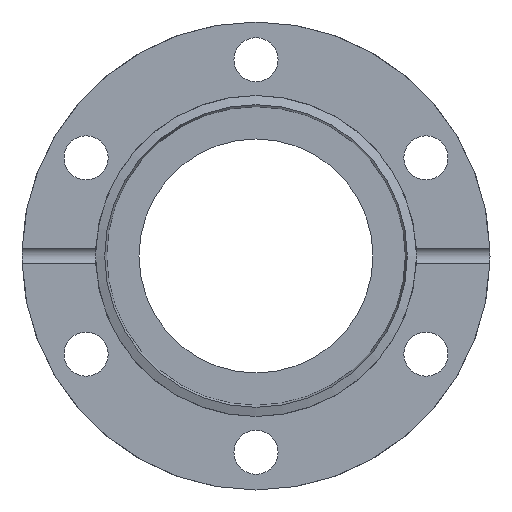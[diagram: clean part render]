
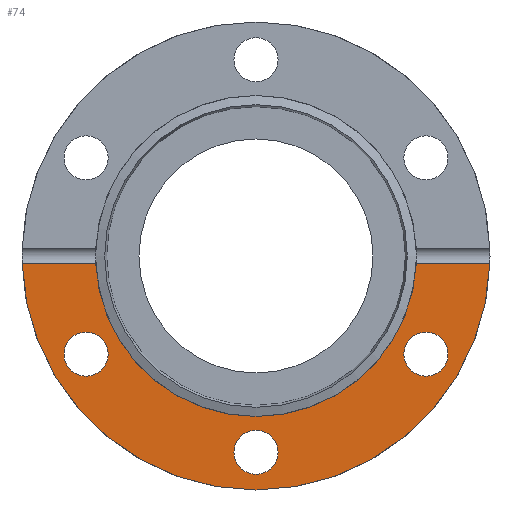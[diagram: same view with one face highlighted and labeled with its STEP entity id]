
A CAD part, left-side view. The second image highlights one B-rep face of the part: STEP entity #74.
In plain terms, the highlighted planar face has unit normal (-1, 0, 0).
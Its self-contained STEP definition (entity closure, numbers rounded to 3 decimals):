
#74 = ADVANCED_FACE( '', ( #150, #151, #152, #153 ), #154, .F. );
#150 = FACE_OUTER_BOUND( '', #248, .T. );
#151 = FACE_BOUND( '', #249, .T. );
#152 = FACE_BOUND( '', #250, .T. );
#153 = FACE_BOUND( '', #251, .T. );
#154 = PLANE( '', #252 );
#248 = EDGE_LOOP( '', ( #348, #349, #350, #351 ) );
#249 = EDGE_LOOP( '', ( #352 ) );
#250 = EDGE_LOOP( '', ( #353 ) );
#251 = EDGE_LOOP( '', ( #354 ) );
#252 = AXIS2_PLACEMENT_3D( '', #355, #356, #357 );
#348 = ORIENTED_EDGE( '', *, *, #469, .T. );
#349 = ORIENTED_EDGE( '', *, *, #476, .T. );
#350 = ORIENTED_EDGE( '', *, *, #477, .F. );
#351 = ORIENTED_EDGE( '', *, *, #472, .T. );
#352 = ORIENTED_EDGE( '', *, *, #478, .F. );
#353 = ORIENTED_EDGE( '', *, *, #479, .F. );
#354 = ORIENTED_EDGE( '', *, *, #460, .F. );
#355 = CARTESIAN_POINT( '', ( -12.7, 0., 35. ) );
#356 = DIRECTION( '', ( 1., 0., 0. ) );
#357 = DIRECTION( '', ( 0., 1., 0. ) );
#460 = EDGE_CURVE( '', #511, #511, #512, .T. );
#469 = EDGE_CURVE( '', #528, #526, #529, .T. );
#472 = EDGE_CURVE( '', #532, #528, #533, .T. );
#476 = EDGE_CURVE( '', #526, #538, #539, .T. );
#477 = EDGE_CURVE( '', #532, #538, #540, .T. );
#478 = EDGE_CURVE( '', #541, #541, #542, .T. );
#479 = EDGE_CURVE( '', #543, #543, #544, .T. );
#511 = VERTEX_POINT( '', #590 );
#512 = CIRCLE( '', #591, 3.3 );
#526 = VERTEX_POINT( '', #605 );
#528 = VERTEX_POINT( '', #620 );
#529 = CIRCLE( '', #621, 35. );
#532 = VERTEX_POINT( '', #637 );
#533 = LINE( '', #638, #639 );
#538 = VERTEX_POINT( '', #658 );
#539 = LINE( '', #659, #660 );
#540 = CIRCLE( '', #661, 24. );
#541 = VERTEX_POINT( '', #662 );
#542 = CIRCLE( '', #663, 3.3 );
#543 = VERTEX_POINT( '', #664 );
#544 = CIRCLE( '', #665, 3.3 );
#590 = CARTESIAN_POINT( '', ( -12.7, 3.3, -29.35 ) );
#591 = AXIS2_PLACEMENT_3D( '', #724, #725, #726 );
#605 = CARTESIAN_POINT( '', ( -12.7, -34.982, -1.118 ) );
#620 = CARTESIAN_POINT( '', ( -12.7, 34.982, -1.118 ) );
#621 = AXIS2_PLACEMENT_3D( '', #742, #743, #744 );
#637 = CARTESIAN_POINT( '', ( -12.7, 23.974, -1.118 ) );
#638 = CARTESIAN_POINT( '', ( -12.7, -35., -1.118 ) );
#639 = VECTOR( '', #745, 1000. );
#658 = CARTESIAN_POINT( '', ( -12.7, -23.974, -1.118 ) );
#659 = CARTESIAN_POINT( '', ( -12.7, -35., -1.118 ) );
#660 = VECTOR( '', #747, 1000. );
#661 = AXIS2_PLACEMENT_3D( '', #748, #749, #750 );
#662 = CARTESIAN_POINT( '', ( -12.7, 27.068, -11.817 ) );
#663 = AXIS2_PLACEMENT_3D( '', #751, #752, #753 );
#664 = CARTESIAN_POINT( '', ( -12.7, -23.768, -17.533 ) );
#665 = AXIS2_PLACEMENT_3D( '', #754, #755, #756 );
#724 = CARTESIAN_POINT( '', ( -12.7, 0., -29.35 ) );
#725 = DIRECTION( '', ( -1., 0., 0. ) );
#726 = DIRECTION( '', ( 0., 1., 0. ) );
#742 = CARTESIAN_POINT( '', ( -12.7, 0., 0. ) );
#743 = DIRECTION( '', ( -1., 0., 0. ) );
#744 = DIRECTION( '', ( 0., 0., 1. ) );
#745 = DIRECTION( '', ( 0., 1., 0. ) );
#747 = DIRECTION( '', ( 0., 1., 0. ) );
#748 = CARTESIAN_POINT( '', ( -12.7, 0., 0. ) );
#749 = DIRECTION( '', ( -1., 0., 0. ) );
#750 = DIRECTION( '', ( 0., 0., 1. ) );
#751 = CARTESIAN_POINT( '', ( -12.7, 25.418, -14.675 ) );
#752 = DIRECTION( '', ( -1., 0., 0. ) );
#753 = DIRECTION( '', ( 0., 0.5, 0.866 ) );
#754 = CARTESIAN_POINT( '', ( -12.7, -25.418, -14.675 ) );
#755 = DIRECTION( '', ( -1., 0., 0. ) );
#756 = DIRECTION( '', ( 0., 0.5, -0.866 ) );
